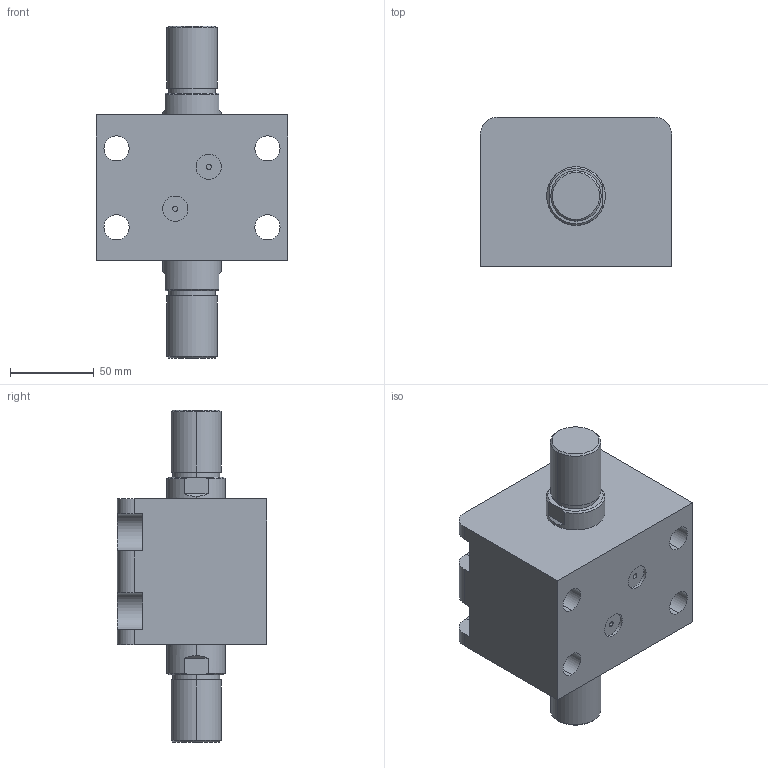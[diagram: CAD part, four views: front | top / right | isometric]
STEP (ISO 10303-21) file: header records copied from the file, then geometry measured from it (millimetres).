
FILE_DESCRIPTION (( 'STEP AP203' ), '1' );
FILE_NAME ('HTB-LWM63-5W.STEP', '2020-12-25T03:33:02', ( '微软用户' ), ( '微软中国' ), 'SwSTEP 2.0', 'SolidWorks 2012', '' );
FILE_SCHEMA (( 'CONFIG_CONTROL_DESIGN' ));
Length unit declared in the file: millimetre
Products named in the file (3): HTB-LWM63-5W活塞杆; HTB-LWM63-5W; HTB-LWM63-5掛极
Assembly tree (2 placements, depth 2):
  HTB-LWM63-5W
    HTB-LWM63-5掛极
    HTB-LWM63-5W活塞杆
Bounding box: 114 x 89 x 198 mm (x, y, z)
Volume: 874691.3 mm3; surface area: 112529.5 mm2
Topology: 2 solids, 2 shells, 102 faces, 246 edges, 160 vertices
Faces by surface type: cylinder 46, plane 40, torus 8, cone 8
Entity records: 3351 total; most frequent: CARTESIAN_POINT 569, DIRECTION 560, ORIENTED_EDGE 492, EDGE_CURVE 246, AXIS2_PLACEMENT_3D 223, VERTEX_POINT 160, EDGE_LOOP 124, CIRCLE 116
